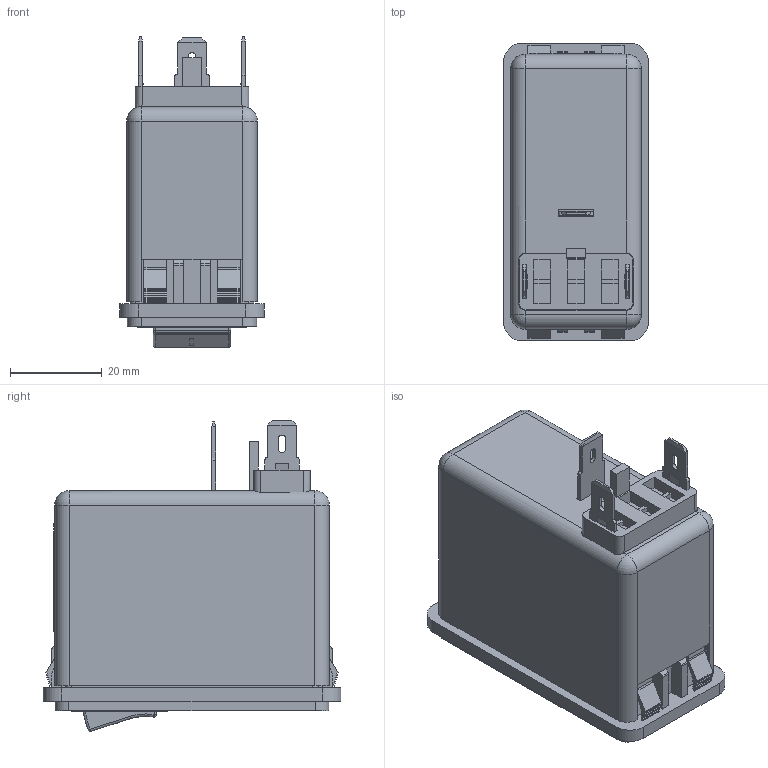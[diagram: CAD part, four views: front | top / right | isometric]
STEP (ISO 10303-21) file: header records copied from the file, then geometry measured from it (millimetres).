
FILE_DESCRIPTION((''),'2;1');
FILE_NAME('D:\_ PRODUCT\FN281-6\3D_simulation\FN286-xx-06_.stp','2012-10-24T10:20:07',('sayan.penton'),(''),'Autodesk Inventor 2010','Autodesk Inventor 2010','');
FILE_SCHEMA(('AUTOMOTIVE_DESIGN { 1 0 10303 214 1 1 1 1 }'));
Length unit declared in the file: millimetre
Products named in the file (1): Part7
Bounding box: 31.6 x 65 x 67.85 mm (x, y, z)
Volume: 31973.8 mm3; surface area: 44401.3 mm2
Topology: 10 solids, 10 shells, 1899 faces, 5383 edges, 3522 vertices
Faces by surface type: plane 1160, bspline 550, cylinder 173, sphere 8, torus 8
Full cylindrical faces by diameter (mm): 1.1 x2, 1.2 x2, 1.5 x2, 2.135 x1, 3 x1, 3.134 x1, 4.7 x2, 5.3 x4
Entity records: 71897 total; most frequent: CARTESIAN_POINT 22876, ORIENTED_EDGE 10706, DIRECTION 8046, EDGE_CURVE 5353, VECTOR 4376, LINE 4376, VERTEX_POINT 3515, EDGE_LOOP 2050
